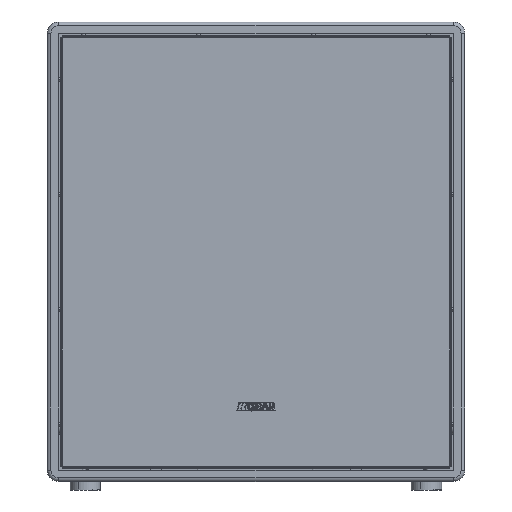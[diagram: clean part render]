
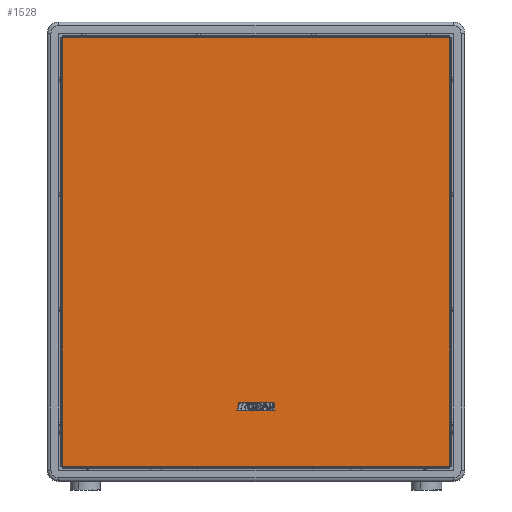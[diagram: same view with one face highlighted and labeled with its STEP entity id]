
A CAD part, front view. The second image highlights one B-rep face of the part: STEP entity #1528.
In plain terms, the highlighted planar face has unit normal (0, -1, 0).
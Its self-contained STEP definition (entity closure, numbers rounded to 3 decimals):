
#1528=ADVANCED_FACE('',(#2715),#19851,.T.);
#2715=FACE_OUTER_BOUND('',#4158,.T.);
#4158=EDGE_LOOP('',(#8118,#8119,#8120,#8121));
#8118=ORIENTED_EDGE('',*,*,#12382,.T.);
#8119=ORIENTED_EDGE('',*,*,#12379,.T.);
#8120=ORIENTED_EDGE('',*,*,#12380,.T.);
#8121=ORIENTED_EDGE('',*,*,#12381,.T.);
#12379=EDGE_CURVE('',#18843,#18844,#16995,.T.);
#12380=EDGE_CURVE('',#18844,#18845,#16996,.T.);
#12381=EDGE_CURVE('',#18845,#18846,#16997,.T.);
#12382=EDGE_CURVE('',#18846,#18843,#16998,.T.);
#16995=B_SPLINE_CURVE_WITH_KNOTS('',1,(#42490,#42491),.UNSPECIFIED.,.F.,
 .F.,(2,2),(0.,505.5),.UNSPECIFIED.);
#16996=B_SPLINE_CURVE_WITH_KNOTS('',1,(#42492,#42493),.UNSPECIFIED.,.F.,
 .F.,(2,2),(0.,560.),.UNSPECIFIED.);
#16997=B_SPLINE_CURVE_WITH_KNOTS('',1,(#42494,#42495),.UNSPECIFIED.,.F.,
 .F.,(2,2),(0.,505.5),.UNSPECIFIED.);
#16998=B_SPLINE_CURVE_WITH_KNOTS('',1,(#42496,#42497),.UNSPECIFIED.,.F.,
 .F.,(2,2),(0.,560.),.UNSPECIFIED.);
#18843=VERTEX_POINT('',#42256);
#18844=VERTEX_POINT('',#42257);
#18845=VERTEX_POINT('',#42258);
#18846=VERTEX_POINT('',#42259);
#19851=PLANE('',#23640);
#23640=AXIS2_PLACEMENT_3D('',#42014,#26665,$);
#26665=DIRECTION('',(0.,-1.,0.));
#42014=CARTESIAN_POINT('',(-303.3,-332.65,-602.65));
#42256=CARTESIAN_POINT('',(252.75,-332.65,13.35));
#42257=CARTESIAN_POINT('',(-252.75,-332.65,13.35));
#42258=CARTESIAN_POINT('',(-252.75,-332.65,-546.65));
#42259=CARTESIAN_POINT('',(252.75,-332.65,-546.65));
#42490=CARTESIAN_POINT('',(252.75,-332.65,13.35));
#42491=CARTESIAN_POINT('',(-252.75,-332.65,13.35));
#42492=CARTESIAN_POINT('',(-252.75,-332.65,13.35));
#42493=CARTESIAN_POINT('',(-252.75,-332.65,-546.65));
#42494=CARTESIAN_POINT('',(-252.75,-332.65,-546.65));
#42495=CARTESIAN_POINT('',(252.75,-332.65,-546.65));
#42496=CARTESIAN_POINT('',(252.75,-332.65,-546.65));
#42497=CARTESIAN_POINT('',(252.75,-332.65,13.35));
